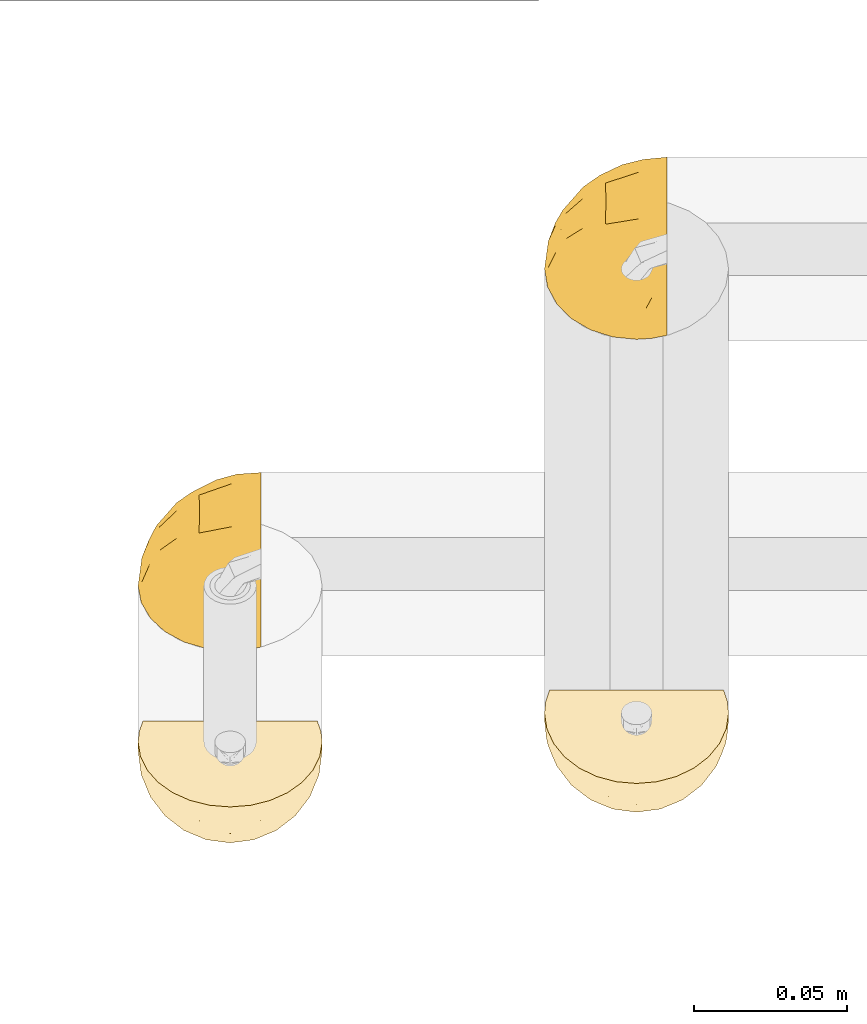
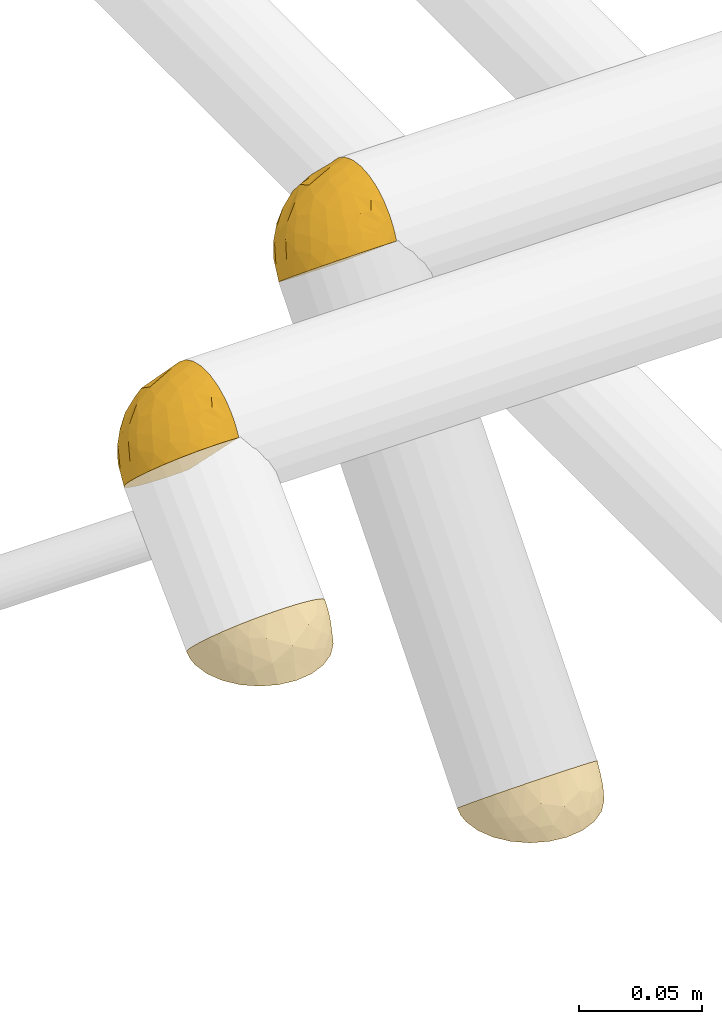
# One storey, part 40 of 156: 4 coverings.
"""IFC2X3 building model written with IfcOpenShell, lengths in millimetres."""

import ifcopenshell
import ifcopenshell.guid

model = None  # the IFC model being written
_history = None  # IfcOwnerHistory: only IFC2X3 demands one
_inside = {}  # id of a spatial element -> (the spatial element, [elements in it])
_under = {}  # id of a project, library or spatial element -> (it, [spatial elements below it])
_declared = {}  # id of a project -> (the project, [libraries it declares])
_typed = {}  # id of a type object -> (the type object, [elements of that type])
_made_of = {}  # id of a material, layer set ... -> (it, [elements and type objects made of it])


def new_model(schema):
    """Start an empty IFC model of exactly this schema.

    Asked for "IFC4X3", IfcOpenShell would pick the latest addendum, in which some entities
    have other attributes; the version numbers below select the first issue.
    IFC2X3 requires an IfcOwnerHistory on every rooted entity: one is made here for all.
    """
    global model, _history
    if schema == "IFC4X3":
        model = ifcopenshell.file(schema_version=(4, 3, 0, 0))
    else:
        model = ifcopenshell.file(schema=schema)
    _inside.clear()
    _under.clear()
    _declared.clear()
    _typed.clear()
    _made_of.clear()
    _history = None
    if model.schema == "IFC2X3":
        org = make("IfcOrganization", Name="unknown")
        user = make(
            "IfcPersonAndOrganization",
            ThePerson=make("IfcPerson", FamilyName="unknown"),
            TheOrganization=org,
        )
        app = make(
            "IfcApplication",
            ApplicationDeveloper=org,
            Version="unknown",
            ApplicationFullName="unknown",
            ApplicationIdentifier="unknown",
        )
        _history = make(
            "IfcOwnerHistory",
            OwningUser=user,
            OwningApplication=app,
            ChangeAction="ADDED",
            CreationDate=0,
        )
    return model


def make(cls, **values):
    """One entity of the class cls with the attributes given. An attribute that is None is left unset."""
    return model.create_entity(
        cls, **{name: value for name, value in values.items() if value is not None}
    )


def entity(cls, *values):
    """Any entity or typed value of the class cls, its attributes in the order of the schema. None: left unset."""
    e = model.create_entity(cls)
    for i, value in enumerate(values):
        if value is not None:
            e[i] = value
    return e


def rooted(cls, **values):
    """An entity with a GlobalId (a new one), such as an element, a storey or a relation."""
    return make(cls, GlobalId=ifcopenshell.guid.new(), OwnerHistory=_history, **values)


def si_unit(unit_type, name, prefix=None):
    """IfcSIUnit, for example si_unit("LENGTHUNIT", "METRE", prefix="MILLI")."""
    return make("IfcSIUnit", UnitType=unit_type, Prefix=prefix, Name=name)


def converted_unit(unit_type, name, factor, base, dimensions=None, offset=None):
    """IfcConversionBasedUnit, such as the inch: factor (a typed value) times the base unit."""
    return make(
        "IfcConversionBasedUnit"
        if offset is None
        else "IfcConversionBasedUnitWithOffset",
        ConversionOffset=offset,
        Dimensions=None
        if dimensions is None
        else entity("IfcDimensionalExponents", *dimensions),
        UnitType=unit_type,
        Name=name,
        ConversionFactor=make(
            "IfcMeasureWithUnit", ValueComponent=factor, UnitComponent=base
        ),
    )


def derived_unit(unit_type, elements):
    """IfcDerivedUnit: a product of units, each with its exponent."""
    return make(
        "IfcDerivedUnit",
        Elements=[
            make("IfcDerivedUnitElement", Unit=unit, Exponent=power)
            for unit, power in elements
        ],
        UnitType=unit_type,
    )


def assignment(units):
    """IfcUnitAssignment: the units of a project."""
    return None if units is None else make("IfcUnitAssignment", Units=units)


def point(xyz):
    """IfcCartesianPoint."""
    return None if xyz is None else make("IfcCartesianPoint", Coordinates=xyz)


def direction(xyz):
    """IfcDirection."""
    return None if xyz is None else make("IfcDirection", DirectionRatios=xyz)


def frame(location, z_axis=None, x_axis=None):
    """IfcAxis2Placement3D, a coordinate frame: its origin and axes. An axis left out is left unset."""
    return make(
        "IfcAxis2Placement3D",
        Location=point(location),
        Axis=direction(z_axis),
        RefDirection=direction(x_axis),
    )


def origin_with_axes():
    """The frame at (0, 0, 0) with the z axis (0, 0, 1) and the x axis (1, 0, 0) written out."""
    return frame((0.0, 0.0, 0.0), z_axis=(0.0, 0.0, 1.0), x_axis=(1.0, 0.0, 0.0))


def place(relative_to, where):
    """IfcLocalPlacement: puts the frame where relative to a parent placement (None: the world)."""
    return make(
        "IfcLocalPlacement", PlacementRelTo=relative_to, RelativePlacement=where
    )


def context(
    kind, dimensions, precision=None, world=None, true_north=None, identifier=None
):
    """IfcGeometricRepresentationContext, for example the 3D "Model" context."""
    return make(
        "IfcGeometricRepresentationContext",
        ContextIdentifier=identifier,
        ContextType=kind,
        CoordinateSpaceDimension=dimensions,
        Precision=precision,
        WorldCoordinateSystem=world,
        TrueNorth=true_north,
    )


def subcontext(parent, identifier, kind, view, scale=None):
    """IfcGeometricRepresentationSubContext, for example "Body" below "Model"."""
    return make(
        "IfcGeometricRepresentationSubContext",
        ContextIdentifier=identifier,
        ContextType=kind,
        ParentContext=parent,
        TargetScale=scale,
        TargetView=view,
    )


def project(units=None, contexts=None):
    """IfcProject with its units and contexts."""
    return rooted(
        "IfcProject",
        Name="project",
        RepresentationContexts=contexts,
        UnitsInContext=assignment(units),
    )


def spatial(cls, under=None, at=None, **own):
    """A site, building, storey or space (cls), placed at a placement, below another one or the project."""
    s = rooted(cls, ObjectPlacement=at, **own)
    if under is not None:
        _under.setdefault(under.id(), (under, []))[1].append(s)
    return s


def faces_of(points, faces, orient=None, outer=None):
    """IfcFace entities. A face is a list of loops; a loop is a list of indices into points, from 0.

    orient and outer hold one flag for each loop. By default every Orientation is true, the
    first loop of a face is its IfcFaceOuterBound and the others are IfcFaceBound.
    """
    made = []
    for i, loops in enumerate(faces):
        bounds = []
        for j, loop in enumerate(loops):
            is_outer = j == 0 if outer is None else outer[i][j]
            bounds.append(
                make(
                    "IfcFaceOuterBound" if is_outer else "IfcFaceBound",
                    Bound=make("IfcPolyLoop", Polygon=[points[k] for k in loop]),
                    Orientation=True if orient is None else orient[i][j],
                )
            )
        made.append(make("IfcFace", Bounds=bounds))
    return made


def open_shell(faces, orient=None, outer=None):
    """The faces of one IfcOpenShell. surface_model builds it on its shared points."""
    return ("IfcOpenShell", faces, orient, outer)


def surface_model(cls, points, shells):
    """IfcFaceBasedSurfaceModel or IfcShellBasedSurfaceModel (cls): surfaces that need not close."""
    shared = [point(p) for p in points]
    made = [make(c, CfsFaces=faces_of(shared, fs, o, b)) for c, fs, o, b in shells]
    if cls == "IfcFaceBasedSurfaceModel":
        return make(cls, FbsmFaces=made)
    return make(cls, SbsmBoundary=made)


def shape(context_of_items, identifier, shape_type, items):
    """IfcShapeRepresentation: the items that make up one representation, for example the "Body"."""
    return make(
        "IfcShapeRepresentation",
        ContextOfItems=context_of_items,
        RepresentationIdentifier=identifier,
        RepresentationType=shape_type,
        Items=items,
    )


def source(mapping_origin, context_of_items, identifier, shape_type, items):
    """IfcRepresentationMap: a shape defined once, which mapped items show again and again."""
    return make(
        "IfcRepresentationMap",
        MappingOrigin=mapping_origin,
        MappedRepresentation=shape(context_of_items, identifier, shape_type, items),
    )


def transform(
    local_origin,
    x_axis=None,
    y_axis=None,
    z_axis=None,
    scale=None,
    scale2=None,
    scale3=None,
    uniform=True,
):
    """IfcCartesianTransformationOperator3D, or its non-uniform kind. x_axis, y_axis, z_axis: its Axis1, 2, 3."""
    if uniform:
        return make(
            "IfcCartesianTransformationOperator3D",
            Axis1=direction(x_axis),
            Axis2=direction(y_axis),
            LocalOrigin=point(local_origin),
            Scale=scale,
            Axis3=direction(z_axis),
        )
    return make(
        "IfcCartesianTransformationOperator3DnonUniform",
        Axis1=direction(x_axis),
        Axis2=direction(y_axis),
        LocalOrigin=point(local_origin),
        Scale=scale,
        Axis3=direction(z_axis),
        Scale2=scale2,
        Scale3=scale3,
    )


def mapped(mapping_source, mapping_target):
    """IfcMappedItem: shows the shape of a source again, moved by a transform."""
    return make(
        "IfcMappedItem", MappingSource=mapping_source, MappingTarget=mapping_target
    )


def made_of(thing, what):
    """Note that an element or type object is made of a material, layer set ...; save() writes the relation."""
    if what is not None:
        _made_of.setdefault(what.id(), (what, []))[1].append(thing)
    return thing


def element(
    cls,
    number,
    at=None,
    inside=None,
    cuts=None,
    type_object=None,
    material=None,
    context=None,
    identifier="Body",
    shape_type=None,
    held_by="IfcProductDefinitionShape",
    body=None,
    shapes=None,
    **own,
):
    """One element of the class cls, such as IfcWall. Its Tag is "e" and its number.

    at: its placement. inside: the storey or other place that contains it. cuts: it is an
    opening in that element (IfcRelVoidsElement). A single representation is given by context,
    identifier, shape_type and body (its items); several are given by shapes. held_by: the class
    of the entity that holds the representations. save() writes the other relations.
    """
    e = rooted(cls, Tag="e%d" % number, ObjectPlacement=at, **own)
    if body is not None:
        shapes = [shape(context, identifier, shape_type, body)]
    if shapes is not None:
        e.Representation = make(held_by, Representations=shapes)
    if inside is not None:
        _inside.setdefault(inside.id(), (inside, []))[1].append(e)
    if cuts is not None:
        rooted(
            "IfcRelVoidsElement", RelatingBuildingElement=cuts, RelatedOpeningElement=e
        )
    if type_object is not None:
        _typed.setdefault(type_object.id(), (type_object, []))[1].append(e)
    return made_of(e, material)


def aggregate(whole, parts):
    """IfcRelAggregates: a whole, such as a stair, and the parts it consists of."""
    return rooted("IfcRelAggregates", RelatingObject=whole, RelatedObjects=parts)


def save(model, path):
    """Write the relations noted so far, then the file.

    IfcRelAggregates (storeys below a building ...), IfcRelContainedInSpatialStructure (elements
    in a storey), IfcRelDefinesByType, IfcRelAssociatesMaterial and IfcRelDeclares: one each for
    every whole, place, type object, material and project.
    """
    for whole, parts in _under.values():
        aggregate(whole, parts)
    for where, things in _inside.values():
        rooted(
            "IfcRelContainedInSpatialStructure",
            RelatedElements=things,
            RelatingStructure=where,
        )
    for kind, things in _typed.values():
        rooted("IfcRelDefinesByType", RelatedObjects=things, RelatingType=kind)
    for what, things in _made_of.values():
        rooted("IfcRelAssociatesMaterial", RelatedObjects=things, RelatingMaterial=what)
    for by, libraries in _declared.values():
        rooted("IfcRelDeclares", RelatingContext=by, RelatedDefinitions=libraries)
    model.write(path)


model = new_model("IFC2X3")

# Units and contexts
model_context = context("Model", 3, precision=0.01, world=frame((0.0, 4.29681676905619e-09, 0.0)), true_north=direction((4.01073788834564e-13, 1.0)))
plan_context = context("Plan", 3, precision=0.01, world=frame((0.0, 4.29681676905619e-09, 0.0)), true_north=direction((4.01073788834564e-13, 1.0)))
body_context = subcontext(model_context, "Body", "Model", "MODEL_VIEW")
ifc_project = project(units=[converted_unit("PLANEANGLEUNIT", "DEGREE", entity("IfcPositiveLengthMeasure", 0.0174532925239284), si_unit("PLANEANGLEUNIT", "RADIAN"), dimensions=[0, 0, 0, 0, 0, 0, 0]), si_unit("AREAUNIT", "SQUARE_METRE"), si_unit("LENGTHUNIT", "METRE", prefix="MILLI"), si_unit("MASSUNIT", "GRAM", prefix="KILO"), si_unit("POWERUNIT", "WATT"), si_unit("PRESSUREUNIT", "PASCAL", prefix="KILO"), si_unit("FORCEUNIT", "NEWTON", prefix="KILO"), si_unit("ELECTRICVOLTAGEUNIT", "VOLT"), si_unit("ELECTRICCURRENTUNIT", "AMPERE"), si_unit("THERMODYNAMICTEMPERATUREUNIT", "DEGREE_CELSIUS"), si_unit("TIMEUNIT", "SECOND"), si_unit("VOLUMEUNIT", "CUBIC_METRE"), derived_unit("LINEARVELOCITYUNIT", [(si_unit("LENGTHUNIT", "METRE"), 1), (si_unit("TIMEUNIT", "SECOND"), -1)]), derived_unit("VOLUMETRICFLOWRATEUNIT", [(si_unit("VOLUMEUNIT", "CUBIC_METRE"), 1), (si_unit("TIMEUNIT", "SECOND"), -1)]), derived_unit("THERMALTRANSMITTANCEUNIT", [(si_unit("POWERUNIT", "WATT"), 1), (si_unit("THERMODYNAMICTEMPERATUREUNIT", "KELVIN"), -1), (si_unit("AREAUNIT", "SQUARE_METRE"), -1)]), derived_unit("SOUNDPRESSUREUNIT", [(si_unit("PRESSUREUNIT", "PASCAL"), 1)])], contexts=[model_context, plan_context])

# Site, building, storey
site_placement = place(None, frame((0.0, -4.29681676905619e-09, 0.0), z_axis=(0.0, 0.0, 1.0), x_axis=(1.0, 0.0, 0.0)))
site = spatial("IfcSite", under=ifc_project, at=site_placement, CompositionType="ELEMENT")
building_placement = place(site_placement, frame((0.0, 4.29681676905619e-09, 0.0), z_axis=(0.0, 0.0, 1.0), x_axis=(1.0, 0.0, 0.0)))
building = spatial("IfcBuilding", under=site, at=building_placement, Name="mc-building", CompositionType="ELEMENT")
storey_placement = place(building_placement, frame((0.0, 0.0, 205200.0), z_axis=(0.0, 0.0, 1.0), x_axis=(1.0, 0.0, 0.0)))
storey = spatial("IfcBuildingStorey", under=building, at=storey_placement, Name="Nivå D + 1,2 m", CompositionType="ELEMENT", Elevation=205200.0)

# Coverings
shared_shape_1 = source(origin_with_axes(), body_context, "Body", "SurfaceModel", [
    surface_model("IfcShellBasedSurfaceModel", [(-3.94179, 9.79965, 28.38286), (-0.54977, 6.40763, 29.59387), (2.92893, 2.92893, 30.0), (-3.94179, 9.79965, -28.38286), (7.65167, -1.79381, 29.24708), (-0.55759, 6.41546, -29.59203), (2.92893, 2.92893, -30.0), (7.64662, -1.78875, -29.24871), (12.12993, -6.27206, -27.03116), (16.15206, -10.29419, -23.45843), (16.15838, -10.30052, 23.45129), (23.61089, -17.75303, 6.67182), (19.51655, -13.65868, 18.70033), (22.04285, -16.18498, 13.01217), (23.60974, -17.75187, -6.67896), (19.5115, -13.65364, -18.70927), (22.03976, -16.18189, -13.02124), (24.14214, -18.28427, 0.0), (12.13634, -6.27848, 27.02679), (-4.14214, 9.71666, -28.38286), (-4.14214, 4.92516, -29.59295), (-4.14214, -7.76457, -28.97778), (-4.14214, 0.0, -30.0), (-4.14214, -7.76457, 28.97778), (-4.14214, 9.71666, 28.38286), (-4.14214, 4.92516, 29.59295), (-4.14214, 0.0, 30.0), (-4.14214, -15.0, -25.98076), (-4.14214, -21.2132, -21.2132), (-4.14214, -25.98076, -15.0), (-4.14214, -25.98076, 15.0), (-4.14214, -28.97778, -7.76457), (-4.14214, -21.2132, 21.2132), (-4.14214, -15.0, 25.98076), (-4.14214, -28.97778, 7.76457), (-4.14214, -30.0, 0.0), (-4.03371, 9.73823, 28.38286), (-4.03371, 9.73823, -28.38286), (0.75762, 5.10024, -29.74593), (-0.3153, 0.7612, -30.0), (-4.14214, 6.72926, -29.13732), (3.51153, -28.47759, 0.0), (1.07073, -16.48719, -24.72166), (5.96174, -13.90929, -25.40449), (4.98203, -19.8458, -21.21707), (12.00115, -16.70966, -21.21725), (9.63678, -22.60697, -15.96566), (16.04291, -23.696, 0.0), (1.01665, -8.70344, -28.48869), (6.0887, -27.10053, -9.41207), (6.15361, -7.03458, -28.31794), (2.559, -24.06296, -17.00372), (15.67582, -22.79166, -9.91246), (-2.22872, 0.3806, -30.0), (10.70486, -11.29106, -25.40449), (11.1652, -26.95518, 0.0), (0.90412, 1.576, -30.0), (16.10573, -19.03613, -15.96566), (6.15732, -7.04193, 28.31507), (0.90412, 1.576, 30.0), (6.09167, -27.10321, 9.40185), (9.63946, -22.61205, 15.95655), (4.9843, -19.85321, 21.20933), (2.56271, -24.06815, 16.99528), (12.00534, -16.71658, 21.20916), (16.10903, -19.04081, 15.95656), (1.01832, -8.71358, 28.48531), (-0.3153, 0.7612, 30.0), (-2.22872, 0.3806, 30.0), (10.71005, -11.29855, 25.39877), (1.07034, -16.49587, 24.71586), (15.67835, -22.79349, 9.90425), (5.96496, -13.91782, 25.39877), (-1.82933, 7.68719, 29.13704), (-4.14214, 3.07073, 29.74622)], [open_shell([[[0, 1, 2]], [[0, 2, 3]], [[3, 2, 4]], [[5, 3, 6]], [[3, 7, 6]], [[7, 3, 8]], [[8, 3, 9]], [[3, 4, 10]], [[11, 3, 10]], [[12, 13, 11]], [[12, 11, 10]], [[3, 11, 14]], [[15, 9, 14]], [[15, 14, 16]], [[3, 14, 9]], [[11, 17, 14]], [[10, 4, 18]], [[19, 20, 21]], [[22, 21, 20]], [[19, 21, 23]], [[24, 19, 25]], [[26, 25, 19]], [[23, 26, 19]], [[21, 27, 23]], [[27, 28, 29]], [[27, 29, 30]], [[30, 29, 31]], [[23, 32, 33]], [[27, 30, 32]], [[34, 30, 31]], [[31, 35, 34]], [[32, 23, 27]], [[19, 24, 36]], [[37, 19, 36]], [[0, 3, 36]], [[37, 36, 3]], [[38, 6, 39]], [[5, 37, 3]], [[5, 40, 37]], [[20, 39, 22]], [[20, 38, 39]], [[20, 40, 5]], [[19, 37, 40]], [[5, 38, 20]], [[31, 41, 35]], [[42, 43, 44]], [[44, 45, 46]], [[43, 45, 44]], [[14, 17, 47]], [[27, 21, 48]], [[41, 31, 49]], [[48, 39, 50]], [[29, 51, 49]], [[46, 52, 49]], [[28, 44, 51]], [[48, 43, 42]], [[21, 53, 48]], [[29, 49, 31]], [[8, 9, 54]], [[8, 54, 50]], [[49, 55, 41]], [[50, 56, 7]], [[45, 54, 9]], [[48, 50, 43]], [[9, 15, 45]], [[43, 54, 45]], [[52, 47, 55]], [[16, 14, 52]], [[57, 45, 15]], [[46, 57, 52]], [[52, 14, 47]], [[57, 15, 16]], [[56, 6, 7]], [[8, 50, 7]], [[55, 49, 52]], [[56, 50, 39]], [[50, 54, 43]], [[52, 57, 16]], [[45, 57, 46]], [[51, 44, 46]], [[42, 28, 27]], [[49, 51, 46]], [[28, 51, 29]], [[28, 42, 44]], [[48, 42, 27]], [[53, 21, 22]], [[53, 39, 48]], [[58, 4, 59]], [[34, 41, 60]], [[61, 62, 63]], [[64, 65, 12]], [[66, 67, 68]], [[69, 64, 10]], [[70, 66, 33]], [[47, 71, 55]], [[61, 64, 62]], [[60, 71, 61]], [[18, 4, 58]], [[68, 23, 66]], [[13, 71, 11]], [[47, 17, 11]], [[12, 10, 64]], [[13, 12, 65]], [[60, 55, 71]], [[71, 13, 65]], [[61, 65, 64]], [[32, 62, 70]], [[66, 72, 58]], [[69, 10, 18]], [[67, 58, 59]], [[62, 64, 72]], [[60, 61, 63]], [[69, 58, 72]], [[30, 34, 60]], [[23, 68, 26]], [[4, 2, 59]], [[71, 47, 11]], [[67, 66, 58]], [[33, 66, 23]], [[71, 65, 61]], [[58, 69, 18]], [[64, 69, 72]], [[70, 62, 72]], [[63, 32, 30]], [[66, 70, 72]], [[32, 70, 33]], [[32, 63, 62]], [[60, 63, 30]], [[41, 34, 35]], [[41, 55, 60]], [[73, 0, 36]], [[1, 67, 2]], [[1, 74, 67]], [[25, 36, 24]], [[25, 73, 36]], [[1, 73, 25]], [[26, 67, 74]], [[25, 74, 1]]])]),
])
covering_1_placement = place(storey_placement, frame((323245.0, 458867.73129, 4175.79999999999), z_axis=(-1.0, 0.0, 0.0), x_axis=(0.0, 0.0, 1.0)))
element("IfcCovering", 1, at=covering_1_placement, inside=storey, Name="BI10T - Cellegummi 18-32 mm kalde rør", PredefinedType="INSULATION", context=body_context, shape_type="MappedRepresentation", body=[
    mapped(shared_shape_1, transform((0.0, 0.0, 0.0), scale=1.0)),
])
shared_shape_2 = source(origin_with_axes(), body_context, "Body", "SurfaceModel", [
    surface_model("IfcShellBasedSurfaceModel", [(13.02124, 10.0, 27.02679), (18.70927, 10.0, 23.45129), (23.45843, 10.0, 18.70033), (27.03116, 10.0, 13.01217), (29.24871, 10.0, 6.67182), (-9.71666, 10.0, -28.38286), (-4.91962, 10.0, 29.59387), (0.0, 10.0, 30.0), (6.67896, 10.0, 29.24708), (-9.71666, 10.0, 28.38286), (29.24708, 10.0, -6.67896), (27.02679, 10.0, -13.02124), (23.45129, 10.0, -18.70927), (18.70033, 10.0, -23.45843), (13.01217, 10.0, -27.03116), (6.67182, 10.0, -29.24871), (0.0, 10.0, -30.0), (-4.93069, 10.0, -29.59203), (30.0, 10.0, 0.0), (-10.0, 9.71666, 28.38286), (-10.0, 9.71666, -28.38286), (-10.0, 4.92516, -29.59295), (-10.0, 0.0, -30.0), (-10.0, -7.76457, -28.97778), (-10.0, -7.76457, 28.97778), (-10.0, 4.92516, 29.59295), (-10.0, 0.0, 30.0), (-10.0, -15.0, -25.98076), (-10.0, -21.2132, -21.2132), (-10.0, -25.98076, -15.0), (-10.0, -25.98076, 15.0), (-10.0, -28.97778, -7.76457), (-10.0, -21.2132, 21.2132), (-10.0, -15.0, 25.98076), (-10.0, -28.97778, 7.76457), (-10.0, -30.0, 0.0), (-9.79965, 9.79965, 28.38286), (-9.79965, 9.79965, -28.38286), (-1.90583, 10.0, -29.84231), (-2.92893, 2.92893, -30.0), (-10.0, 7.86253, -28.85112), (-0.18783, -26.41768, -11.4805), (-7.79338, 0.91401, -30.0), (-5.26762, -10.95272, -27.71639), (-4.98391, -5.1927, -29.39401), (-4.6967, 2.1967, -30.0), (-2.14194, -3.86796, -29.40615), (-6.46447, 1.46447, -30.0), (27.10306, 0.43926, -9.91246), (5.08777, -26.4251, -5.8392), (10.0, -24.64102, 0.0), (0.0, -27.32051, 0.0), (4.78971, -14.75906, -23.34639), (7.00016, -8.00903, -26.11474), (12.24852, -11.88641, -21.21725), (-2.64723, -17.28965, -23.8006), (5.2968, -1.33673, -28.60563), (-1.82802, 5.58677, -30.0), (4.84858, 3.07168, -29.31256), (-4.05424, -23.27354, -18.26284), (3.0639, -21.17395, -18.26284), (9.27475, 5.03381, -28.31794), (-0.91401, 7.79338, -30.0), (17.54914, -4.66529, -21.21702), (20.22211, 2.2131, -21.21725), (22.42399, -4.20416, -15.96566), (13.77529, -0.41529, -25.40449), (15.48353, 5.06719, -25.40449), (18.02969, -17.58862, -6.308), (24.64102, -10.0, 0.0), (17.32051, -17.32051, 0.0), (27.49149, 0.63812, 0.0), (23.06518, -10.10075, -8.75013), (24.7537, 3.27293, -15.96566), (12.18259, -5.91766, -24.50745), (-2.5553, -28.75267, -5.65975), (11.52778, -17.43614, -16.77171), (6.61328, -24.05521, -11.04853), (17.82815, -12.63644, -15.18649), (11.7654, -22.96972, -5.42104), (-0.08141, -9.05344, -27.71639), (1.74081, -4.11888, -28.81085), (12.86232, -20.40994, -10.65163), (-0.19094, -26.41851, 11.4805), (-2.55528, -28.75266, 5.65976), (6.61197, -24.05471, 11.05109), (3.056, -21.17726, 18.26284), (-4.05892, -23.27438, 18.26284), (12.18976, -5.92748, 24.49929), (5.29886, -1.33826, 28.60482), (7.00429, -8.01326, 26.1114), (15.49202, 5.06312, 25.39877), (20.2294, 2.20897, 21.20916), (1.7471, -4.12468, 28.80838), (-2.14175, -3.86456, 29.40673), (-0.08141, -9.05344, 27.71639), (17.55561, -4.66936, 21.20939), (13.78174, -0.42327, 25.39877), (-2.64956, -17.29028, 23.8006), (-1.82802, 5.58677, 30.0), (-2.92893, 2.92893, 30.0), (22.42673, -4.21215, 15.95656), (24.75864, 3.26836, 15.95656), (-5.26762, -10.95272, 27.71639), (-0.91401, 7.79338, 30.0), (9.28223, 5.02991, 28.31507), (4.7868, -14.76467, 23.3437), (23.07165, -10.09442, 8.74279), (-7.79338, 0.91401, 30.0), (27.10542, 0.43693, 9.90425), (17.82739, -12.64779, 15.17528), (-4.98391, -5.1927, 29.39401), (8.68343, 1.00816, 28.01372), (4.08428, 4.42335, 29.55498), (11.76704, -22.96839, 5.42215), (5.08771, -26.42495, 5.84002), (12.86252, -20.40843, 10.65448), (18.03307, -17.58443, 6.31045), (11.53566, -17.43624, 16.76438), (12.24593, -11.90057, 21.20916), (-4.6967, 2.1967, 30.0), (-6.46447, 1.46447, 30.0), (-7.86249, 10.0, 28.85094), (-10.0, 1.90585, 29.84249)], [open_shell([[[0, 1, 2]], [[3, 4, 2]], [[5, 0, 2]], [[6, 7, 8]], [[8, 0, 5]], [[6, 5, 9]], [[8, 5, 6]], [[2, 4, 5]], [[4, 10, 5]], [[11, 12, 13]], [[10, 11, 5]], [[13, 5, 11]], [[14, 5, 13]], [[5, 14, 15]], [[16, 17, 5]], [[16, 5, 15]], [[10, 4, 18]], [[19, 20, 21]], [[22, 23, 21]], [[24, 21, 23]], [[25, 19, 26]], [[26, 19, 21]], [[21, 24, 26]], [[23, 27, 24]], [[27, 28, 29]], [[27, 29, 30]], [[30, 29, 31]], [[24, 32, 33]], [[27, 30, 32]], [[34, 30, 31]], [[31, 35, 34]], [[32, 24, 27]], [[20, 19, 36]], [[37, 20, 36]], [[9, 5, 36]], [[37, 36, 5]], [[38, 16, 39]], [[17, 37, 5]], [[17, 40, 37]], [[21, 39, 22]], [[17, 38, 21]], [[21, 38, 39]], [[20, 37, 40]], [[21, 40, 17]], [[29, 41, 31]], [[23, 22, 42]], [[43, 27, 23]], [[23, 44, 43]], [[45, 46, 47]], [[11, 10, 48]], [[49, 50, 51]], [[52, 53, 54]], [[27, 55, 28]], [[56, 57, 58]], [[28, 59, 29]], [[29, 59, 41]], [[55, 60, 59]], [[14, 61, 15]], [[62, 15, 61]], [[63, 64, 65]], [[64, 13, 12]], [[66, 67, 64]], [[68, 69, 70]], [[14, 67, 61]], [[56, 39, 57]], [[10, 18, 71]], [[66, 64, 63]], [[65, 48, 72]], [[12, 11, 73]], [[60, 55, 52]], [[71, 72, 48]], [[73, 64, 12]], [[48, 73, 11]], [[65, 73, 48]], [[62, 16, 15]], [[67, 14, 13]], [[10, 71, 48]], [[58, 66, 56]], [[72, 71, 69]], [[66, 63, 74]], [[75, 49, 51]], [[43, 55, 27]], [[52, 54, 76]], [[60, 76, 77]], [[41, 49, 75]], [[54, 78, 76]], [[78, 65, 72]], [[70, 79, 68]], [[78, 54, 63]], [[49, 79, 50]], [[31, 75, 35]], [[64, 73, 65]], [[64, 67, 13]], [[61, 67, 66]], [[42, 44, 23]], [[55, 43, 80]], [[55, 80, 52]], [[81, 53, 80]], [[80, 53, 52]], [[74, 56, 66]], [[68, 78, 72]], [[79, 70, 50]], [[76, 78, 82]], [[42, 47, 44]], [[56, 81, 39]], [[80, 43, 44]], [[81, 56, 53]], [[81, 80, 46]], [[77, 49, 41]], [[46, 80, 44]], [[39, 81, 45]], [[35, 75, 51]], [[41, 75, 31]], [[78, 63, 65]], [[74, 54, 53]], [[54, 74, 63]], [[56, 74, 53]], [[77, 76, 82]], [[52, 76, 60]], [[55, 59, 28]], [[41, 59, 60]], [[47, 46, 44]], [[45, 81, 46]], [[60, 77, 41]], [[79, 77, 82]], [[77, 79, 49]], [[79, 82, 68]], [[78, 68, 82]], [[69, 68, 72]], [[58, 62, 61]], [[62, 58, 57]], [[66, 58, 61]], [[30, 34, 83]], [[35, 51, 84]], [[83, 85, 86]], [[83, 86, 87]], [[88, 89, 90]], [[91, 92, 1]], [[93, 94, 95]], [[96, 92, 97]], [[32, 98, 33]], [[89, 99, 100]], [[92, 101, 102]], [[103, 24, 33]], [[8, 104, 105]], [[86, 106, 98]], [[69, 71, 107]], [[24, 108, 26]], [[92, 2, 1]], [[109, 107, 71]], [[110, 107, 101]], [[109, 4, 3]], [[71, 18, 4]], [[32, 87, 98]], [[0, 91, 1]], [[108, 24, 111]], [[32, 30, 87]], [[105, 0, 8]], [[96, 101, 92]], [[112, 97, 105]], [[102, 109, 3]], [[91, 105, 97]], [[113, 89, 112]], [[3, 2, 102]], [[109, 101, 107]], [[113, 112, 105]], [[71, 4, 109]], [[114, 115, 50]], [[95, 106, 90]], [[51, 50, 115]], [[115, 85, 83]], [[116, 114, 117]], [[118, 116, 110]], [[86, 118, 106]], [[103, 98, 95]], [[101, 96, 110]], [[70, 117, 114]], [[51, 115, 84]], [[92, 102, 2]], [[109, 102, 101]], [[105, 91, 0]], [[92, 91, 97]], [[98, 103, 33]], [[111, 24, 103]], [[90, 106, 119]], [[107, 117, 69]], [[95, 98, 106]], [[119, 96, 88]], [[93, 100, 120]], [[118, 110, 119]], [[117, 110, 116]], [[108, 111, 121]], [[103, 95, 111]], [[93, 95, 90]], [[90, 89, 93]], [[111, 94, 121]], [[84, 83, 34]], [[100, 93, 89]], [[95, 94, 111]], [[83, 84, 115]], [[35, 84, 34]], [[88, 96, 97]], [[110, 96, 119]], [[88, 97, 112]], [[119, 88, 90]], [[106, 118, 119]], [[85, 118, 86]], [[83, 87, 30]], [[98, 87, 86]], [[93, 120, 94]], [[121, 94, 120]], [[70, 114, 50]], [[85, 114, 116]], [[69, 117, 70]], [[110, 117, 107]], [[114, 85, 115]], [[85, 116, 118]], [[104, 8, 7]], [[99, 113, 104]], [[88, 112, 89]], [[104, 113, 105]], [[89, 113, 99]], [[122, 9, 36]], [[6, 100, 7]], [[6, 123, 100]], [[25, 36, 19]], [[25, 123, 6]], [[25, 122, 36]], [[26, 100, 123]], [[6, 122, 25]]])]),
])
covering_2_placement = place(storey_placement, frame((323245.0, 458928.61963, 4236.68835000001), z_axis=(0.0, 0.707106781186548, -0.707106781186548), x_axis=(0.0, 0.707106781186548, 0.707106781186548)))
element("IfcCovering", 2, at=covering_2_placement, inside=storey, Name="BI10T - Cellegummi 18-32 mm kalde rør", PredefinedType="INSULATION", context=body_context, shape_type="MappedRepresentation", body=[
    mapped(shared_shape_2, transform((0.0, 0.0, 0.0), scale=1.0)),
])
shared_shape_3 = source(origin_with_axes(), body_context, "Body", "SurfaceModel", [
    surface_model("IfcShellBasedSurfaceModel", [(-3.45758, 9.78295, -28.38286), (-3.45758, 9.78295, 28.38286), (-0.3741, 6.1082, 29.59387), (2.78817, 2.33956, 30.0), (7.08133, -2.77683, 29.24708), (-0.38121, 6.11668, -29.59203), (2.78817, 2.33956, -30.0), (7.07673, -2.77135, -29.24871), (11.15224, -7.62835, -27.03116), (14.80851, -11.98572, -23.45843), (20.16347, -18.36751, 13.01217), (11.15807, -7.6353, 27.02679), (14.81426, -11.99258, 23.45129), (17.86696, -15.63064, 18.70033), (21.58888, -20.06625, 6.67182), (21.58783, -20.065, -6.67896), (17.86237, -15.62518, -18.70927), (20.16066, -18.36416, -13.02124), (22.0718, -20.64178, 0.0), (-3.6397, 9.71666, -28.38286), (-3.6397, 4.92516, -29.59295), (-3.6397, -7.76457, -28.97778), (-3.6397, 0.0, -30.0), (-3.6397, -7.76457, 28.97778), (-3.6397, 4.92516, 29.59295), (-3.6397, 9.71666, 28.38286), (-3.6397, 0.0, 30.0), (-3.6397, -15.0, -25.98076), (-3.6397, -21.2132, -21.2132), (-3.6397, -25.98076, -15.0), (-3.6397, -25.98076, 15.0), (-3.6397, -28.97778, -7.76457), (-3.6397, -21.2132, 21.2132), (-3.6397, -15.0, 25.98076), (-3.6397, -28.97778, 7.76457), (-3.6397, -30.0, 0.0), (-3.5428, 9.73375, 28.38286), (-3.5428, 9.73375, -28.38286), (0.81437, 4.69185, -29.74593), (-3.6397, 6.72926, -29.13732), (-0.2195, 0.60307, -30.0), (0.50417, -11.07701, -27.71639), (-0.69807, -5.45483, -29.44726), (1.05376, -17.87041, -23.8006), (3.73629, -28.75151, -5.73237), (13.03147, -24.76764, -9.18926), (10.0411, -27.58771, 0.0), (7.04394, -19.32381, -21.21701), (2.19618, -23.05424, -18.56527), (5.43333, -14.31919, -25.40449), (3.64228, -27.00674, -11.4805), (4.6462, -7.29029, -28.56314), (-1.23824, 0.42344, -30.0), (8.73331, -23.16597, -15.96566), (5.96615, -28.30623, 0.0), (-0.698, -5.4549, 29.44724), (-0.2195, 0.60307, 30.0), (-1.23824, 0.42344, 30.0), (3.73618, -28.75155, 5.73229), (1.97339, -23.33127, 18.26284), (3.63629, -27.00791, 11.4805), (8.73582, -23.17114, 15.95655), (13.02579, -24.7761, 9.17316), (4.65709, -7.30292, 28.55797), (0.50759, -11.07634, 27.71639), (5.43613, -14.32786, 25.39877), (1.32682, -18.1302, 23.56546), (7.04654, -19.33097, 21.2094), (-1.53727, 7.49442, 29.13704), (-3.6397, 3.07073, 29.74622)], [open_shell([[[0, 1, 2]], [[3, 4, 2]], [[0, 2, 4]], [[5, 0, 6]], [[0, 7, 6]], [[7, 0, 8]], [[8, 0, 9]], [[0, 4, 10]], [[11, 12, 13]], [[0, 10, 14]], [[10, 11, 13]], [[14, 15, 0]], [[16, 9, 17]], [[17, 9, 0]], [[15, 17, 0]], [[14, 18, 15]], [[10, 4, 11]], [[19, 20, 21]], [[22, 21, 20]], [[19, 21, 23]], [[24, 25, 26]], [[26, 25, 19]], [[19, 23, 26]], [[21, 27, 23]], [[27, 28, 29]], [[27, 29, 30]], [[30, 29, 31]], [[23, 32, 33]], [[27, 30, 32]], [[34, 30, 31]], [[31, 35, 34]], [[32, 23, 27]], [[19, 25, 36]], [[37, 19, 36]], [[1, 0, 36]], [[37, 36, 0]], [[5, 37, 0]], [[38, 20, 5]], [[5, 39, 37]], [[40, 22, 20]], [[20, 38, 40]], [[38, 6, 40]], [[19, 37, 39]], [[20, 39, 5]], [[41, 21, 42]], [[28, 27, 43]], [[44, 45, 46]], [[47, 48, 43]], [[41, 49, 43]], [[41, 27, 21]], [[44, 35, 31]], [[46, 45, 15]], [[50, 31, 29]], [[29, 48, 50]], [[28, 43, 48]], [[51, 40, 7]], [[22, 52, 42]], [[40, 51, 42]], [[8, 9, 49]], [[51, 8, 49]], [[42, 51, 41]], [[6, 7, 40]], [[8, 51, 7]], [[17, 45, 53]], [[9, 16, 47]], [[53, 47, 16]], [[18, 46, 15]], [[15, 45, 17]], [[44, 46, 54]], [[50, 44, 31]], [[45, 50, 53]], [[53, 16, 17]], [[35, 44, 54]], [[49, 41, 51]], [[22, 42, 21]], [[45, 44, 50]], [[42, 52, 40]], [[41, 43, 27]], [[47, 43, 49]], [[47, 49, 9]], [[47, 53, 48]], [[50, 48, 53]], [[29, 28, 48]], [[55, 56, 57]], [[35, 54, 58]], [[30, 59, 32]], [[60, 61, 59]], [[58, 62, 60]], [[63, 64, 65]], [[66, 64, 33]], [[10, 62, 14]], [[59, 67, 66]], [[11, 63, 65]], [[4, 63, 11]], [[26, 23, 55]], [[62, 61, 60]], [[35, 58, 34]], [[13, 12, 67]], [[10, 13, 61]], [[56, 63, 4]], [[61, 62, 10]], [[65, 67, 12]], [[32, 59, 66]], [[64, 23, 33]], [[65, 12, 11]], [[4, 3, 56]], [[55, 63, 56]], [[62, 46, 14]], [[64, 55, 23]], [[60, 30, 34]], [[60, 34, 58]], [[63, 55, 64]], [[14, 46, 18]], [[26, 55, 57]], [[46, 62, 58]], [[58, 54, 46]], [[60, 59, 30]], [[67, 59, 61]], [[67, 61, 13]], [[67, 65, 66]], [[64, 66, 65]], [[33, 32, 66]], [[2, 56, 3]], [[68, 24, 2]], [[2, 69, 56]], [[36, 25, 24]], [[24, 68, 36]], [[68, 1, 36]], [[26, 56, 69]], [[24, 69, 2]]])]),
])
covering_3_placement = place(storey_placement, frame((323377.5, 458877.73129, 4045.32062000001), z_axis=(-1.0, 0.0, 0.0), x_axis=(0.0, 0.0, 1.0)))
element("IfcCovering", 3, at=covering_3_placement, inside=storey, Name="BI10T - Cellegummi 18-32 mm kalde rør", PredefinedType="INSULATION", context=body_context, shape_type="MappedRepresentation", body=[
    mapped(shared_shape_3, transform((0.0, 0.0, 0.0), scale=1.0)),
])
shared_shape_4 = source(origin_with_axes(), body_context, "Body", "SurfaceModel", [
    surface_model("IfcShellBasedSurfaceModel", [(13.02124, 10.0, 27.02679), (18.70927, 10.0, 23.45129), (23.45843, 10.0, 18.70033), (27.03116, 10.0, 13.01217), (29.24871, 10.0, 6.67182), (-9.71666, 10.0, -28.38286), (29.24708, 10.0, -6.67896), (27.02679, 10.0, -13.02124), (23.45129, 10.0, -18.70927), (18.70033, 10.0, -23.45843), (13.01217, 10.0, -27.03116), (6.67182, 10.0, -29.24871), (0.0, 10.0, -30.0), (-4.93069, 10.0, -29.59203), (30.0, 10.0, 0.0), (-10.0, 9.71666, 28.38286), (-10.0, 9.71666, -28.38286), (-10.0, 4.92516, -29.59295), (-10.0, 0.0, -30.0), (-10.0, -7.76457, -28.97778), (-10.0, -7.76457, 28.97778), (-10.0, 4.92516, 29.59295), (-10.0, 0.0, 30.0), (-10.0, -15.0, -25.98076), (-10.0, -21.2132, -21.2132), (-10.0, -25.98076, -15.0), (-10.0, -25.98076, 15.0), (-10.0, -28.97778, -7.76457), (-10.0, -21.2132, 21.2132), (-10.0, -15.0, 25.98076), (-10.0, -28.97778, 7.76457), (-10.0, -30.0, 0.0), (-9.79965, 9.79965, 28.38286), (-9.79965, 9.79965, -28.38286), (-9.71666, 10.0, 28.38286), (-1.90583, 10.0, -29.84231), (-2.92893, 2.92893, -30.0), (-10.0, 7.86253, -28.85112), (-0.18783, -26.41768, -11.4805), (-7.79338, 0.91401, -30.0), (-5.26762, -10.95272, -27.71639), (-4.98391, -5.1927, -29.39401), (-4.6967, 2.1967, -30.0), (-2.14194, -3.86796, -29.40615), (-6.46447, 1.46447, -30.0), (27.10306, 0.43926, -9.91246), (5.08777, -26.4251, -5.8392), (10.0, -24.64102, 0.0), (0.0, -27.32051, 0.0), (4.78971, -14.75906, -23.34639), (7.00016, -8.00903, -26.11474), (12.24852, -11.88641, -21.21725), (-2.64723, -17.28965, -23.8006), (5.2968, -1.33673, -28.60563), (-1.82802, 5.58677, -30.0), (4.84858, 3.07168, -29.31256), (-4.05424, -23.27354, -18.26284), (3.0639, -21.17395, -18.26284), (9.27475, 5.03381, -28.31794), (-0.91401, 7.79338, -30.0), (17.54914, -4.66529, -21.21702), (20.22211, 2.2131, -21.21725), (22.42399, -4.20416, -15.96566), (13.77529, -0.41529, -25.40449), (15.48353, 5.06719, -25.40449), (18.02969, -17.58862, -6.308), (24.64102, -10.0, 0.0), (17.32051, -17.32051, 0.0), (27.49149, 0.63812, 0.0), (23.06518, -10.10075, -8.75013), (24.7537, 3.27293, -15.96566), (12.18259, -5.91766, -24.50745), (-2.5553, -28.75267, -5.65975), (11.52778, -17.43614, -16.77171), (6.61328, -24.05521, -11.04853), (17.82815, -12.63644, -15.18649), (11.7654, -22.96972, -5.42104), (-0.08141, -9.05344, -27.71639), (1.74081, -4.11888, -28.81085), (12.86232, -20.40994, -10.65163), (-0.19094, -26.41851, 11.4805), (-2.55528, -28.75266, 5.65976), (6.61197, -24.05471, 11.05109), (3.056, -21.17726, 18.26284), (-4.05892, -23.27438, 18.26284), (12.18976, -5.92748, 24.49929), (5.29886, -1.33826, 28.60482), (7.00429, -8.01326, 26.1114), (15.49202, 5.06312, 25.39877), (20.2294, 2.20897, 21.20916), (1.7471, -4.12468, 28.80838), (-2.14175, -3.86456, 29.40673), (-0.08141, -9.05344, 27.71639), (17.55561, -4.66936, 21.20939), (13.78174, -0.42327, 25.39877), (-2.64956, -17.29028, 23.8006), (-1.82802, 5.58677, 30.0), (-2.92893, 2.92893, 30.0), (22.42673, -4.21215, 15.95656), (24.75864, 3.26836, 15.95656), (-5.26762, -10.95272, 27.71639), (6.67896, 10.0, 29.24708), (-0.91401, 7.79338, 30.0), (9.28223, 5.02991, 28.31507), (4.7868, -14.76467, 23.3437), (23.07165, -10.09442, 8.74279), (-7.79338, 0.91401, 30.0), (27.10542, 0.43693, 9.90425), (17.82739, -12.64779, 15.17528), (-4.98391, -5.1927, 29.39401), (8.68343, 1.00816, 28.01372), (4.08428, 4.42335, 29.55498), (11.76704, -22.96839, 5.42215), (5.08771, -26.42495, 5.84002), (12.86252, -20.40843, 10.65448), (18.03307, -17.58443, 6.31045), (11.53566, -17.43624, 16.76438), (12.24593, -11.90057, 21.20916), (-4.6967, 2.1967, 30.0), (-6.46447, 1.46447, 30.0), (0.0, 10.0, 30.0), (-7.86249, 10.0, 28.85094), (-4.91962, 10.0, 29.59387), (-10.0, 1.90585, 29.84249)], [open_shell([[[0, 1, 2]], [[3, 4, 2]], [[2, 4, 5]], [[4, 6, 5]], [[7, 8, 9]], [[6, 7, 5]], [[9, 5, 7]], [[10, 5, 9]], [[5, 10, 11]], [[12, 13, 5]], [[12, 5, 11]], [[6, 4, 14]], [[15, 16, 17]], [[18, 19, 17]], [[20, 17, 19]], [[21, 15, 22]], [[22, 15, 17]], [[17, 20, 22]], [[19, 23, 20]], [[23, 24, 25]], [[23, 25, 26]], [[26, 25, 27]], [[20, 28, 29]], [[23, 26, 28]], [[30, 26, 27]], [[27, 31, 30]], [[28, 20, 23]], [[16, 15, 32]], [[33, 16, 32]], [[34, 5, 32]], [[33, 32, 5]], [[35, 12, 36]], [[13, 33, 5]], [[13, 37, 33]], [[17, 36, 18]], [[13, 35, 17]], [[17, 35, 36]], [[16, 33, 37]], [[17, 37, 13]], [[25, 38, 27]], [[19, 18, 39]], [[40, 23, 19]], [[19, 41, 40]], [[42, 43, 44]], [[7, 6, 45]], [[46, 47, 48]], [[49, 50, 51]], [[23, 52, 24]], [[53, 54, 55]], [[24, 56, 25]], [[25, 56, 38]], [[52, 57, 56]], [[10, 58, 11]], [[59, 11, 58]], [[60, 61, 62]], [[61, 9, 8]], [[63, 64, 61]], [[65, 66, 67]], [[10, 64, 58]], [[53, 36, 54]], [[6, 14, 68]], [[63, 61, 60]], [[62, 45, 69]], [[8, 7, 70]], [[57, 52, 49]], [[68, 69, 45]], [[70, 61, 8]], [[45, 70, 7]], [[62, 70, 45]], [[59, 12, 11]], [[64, 10, 9]], [[6, 68, 45]], [[55, 63, 53]], [[69, 68, 66]], [[63, 60, 71]], [[72, 46, 48]], [[40, 52, 23]], [[49, 51, 73]], [[57, 73, 74]], [[38, 46, 72]], [[51, 75, 73]], [[75, 62, 69]], [[67, 76, 65]], [[75, 51, 60]], [[46, 76, 47]], [[27, 72, 31]], [[61, 70, 62]], [[61, 64, 9]], [[58, 64, 63]], [[39, 41, 19]], [[52, 40, 77]], [[52, 77, 49]], [[78, 50, 77]], [[77, 50, 49]], [[71, 53, 63]], [[65, 75, 69]], [[76, 67, 47]], [[73, 75, 79]], [[39, 44, 41]], [[53, 78, 36]], [[77, 40, 41]], [[78, 53, 50]], [[78, 77, 43]], [[74, 46, 38]], [[43, 77, 41]], [[36, 78, 42]], [[31, 72, 48]], [[38, 72, 27]], [[75, 60, 62]], [[71, 51, 50]], [[51, 71, 60]], [[53, 71, 50]], [[74, 73, 79]], [[49, 73, 57]], [[52, 56, 24]], [[38, 56, 57]], [[44, 43, 41]], [[42, 78, 43]], [[57, 74, 38]], [[76, 74, 79]], [[74, 76, 46]], [[76, 79, 65]], [[75, 65, 79]], [[66, 65, 69]], [[55, 59, 58]], [[59, 55, 54]], [[63, 55, 58]], [[26, 30, 80]], [[31, 48, 81]], [[80, 82, 83]], [[80, 83, 84]], [[85, 86, 87]], [[88, 89, 1]], [[90, 91, 92]], [[93, 89, 94]], [[28, 95, 29]], [[86, 96, 97]], [[89, 98, 99]], [[100, 20, 29]], [[101, 102, 103]], [[83, 104, 95]], [[66, 68, 105]], [[20, 106, 22]], [[89, 2, 1]], [[107, 105, 68]], [[108, 105, 98]], [[107, 4, 3]], [[68, 14, 4]], [[28, 84, 95]], [[0, 88, 1]], [[106, 20, 109]], [[28, 26, 84]], [[103, 0, 101]], [[93, 98, 89]], [[110, 94, 103]], [[99, 107, 3]], [[88, 103, 94]], [[111, 86, 110]], [[3, 2, 99]], [[107, 98, 105]], [[111, 110, 103]], [[68, 4, 107]], [[112, 113, 47]], [[92, 104, 87]], [[48, 47, 113]], [[113, 82, 80]], [[114, 112, 115]], [[116, 114, 108]], [[83, 116, 104]], [[100, 95, 92]], [[98, 93, 108]], [[67, 115, 112]], [[48, 113, 81]], [[89, 99, 2]], [[107, 99, 98]], [[103, 88, 0]], [[89, 88, 94]], [[95, 100, 29]], [[109, 20, 100]], [[87, 104, 117]], [[105, 115, 66]], [[92, 95, 104]], [[117, 93, 85]], [[90, 97, 118]], [[116, 108, 117]], [[115, 108, 114]], [[106, 109, 119]], [[100, 92, 109]], [[90, 92, 87]], [[87, 86, 90]], [[109, 91, 119]], [[81, 80, 30]], [[97, 90, 86]], [[92, 91, 109]], [[80, 81, 113]], [[31, 81, 30]], [[85, 93, 94]], [[108, 93, 117]], [[85, 94, 110]], [[117, 85, 87]], [[104, 116, 117]], [[82, 116, 83]], [[80, 84, 26]], [[95, 84, 83]], [[90, 118, 91]], [[119, 91, 118]], [[67, 112, 47]], [[82, 112, 114]], [[66, 115, 67]], [[108, 115, 105]], [[112, 82, 113]], [[82, 114, 116]], [[102, 101, 120]], [[96, 111, 102]], [[85, 110, 86]], [[102, 111, 103]], [[86, 111, 96]], [[121, 34, 32]], [[122, 97, 120]], [[122, 123, 97]], [[21, 32, 15]], [[21, 123, 122]], [[21, 121, 32]], [[22, 97, 123]], [[122, 121, 21]], [[0, 2, 5]], [[122, 120, 0]], [[0, 5, 122]], [[34, 122, 5]], [[0, 120, 101]]])]),
])
covering_4_placement = place(storey_placement, frame((323377.5, 459031.28638, 4228.32044000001), z_axis=(0.0, 0.766044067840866, -0.642788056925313), x_axis=(0.0, 0.642788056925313, 0.766044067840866)))
element("IfcCovering", 4, at=covering_4_placement, inside=storey, Name="BI10T - Cellegummi 18-32 mm kalde rør", PredefinedType="INSULATION", context=body_context, shape_type="MappedRepresentation", body=[
    mapped(shared_shape_4, transform((0.0, 0.0, 0.0), scale=1.0)),
])

save(model, "model.ifc")
